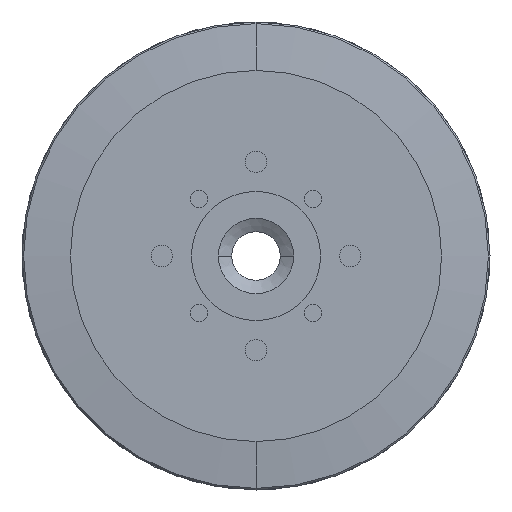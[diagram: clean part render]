
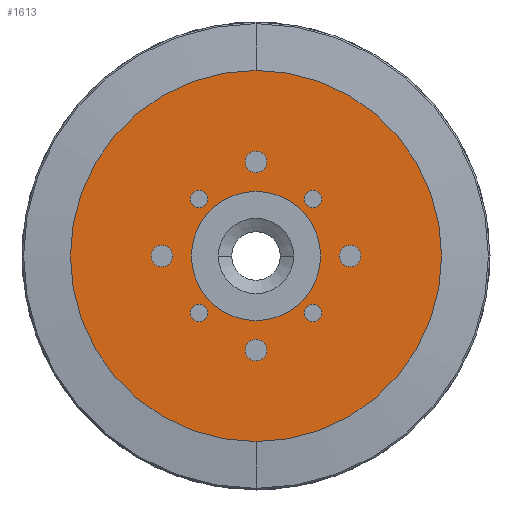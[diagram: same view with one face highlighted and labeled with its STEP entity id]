
A CAD part, left-side view. The second image highlights one B-rep face of the part: STEP entity #1613.
In plain terms, the highlighted planar face has unit normal (-1, 0, 0).
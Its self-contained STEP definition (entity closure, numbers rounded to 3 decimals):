
#92=CARTESIAN_POINT('',(-25.5,0.,0.));
#93=DIRECTION('',(-1.,0.,0.));
#94=DIRECTION('',(0.,0.,1.));
#95=AXIS2_PLACEMENT_3D('',#92,#93,#94);
#101=CARTESIAN_POINT('',(-25.5,0.,0.));
#102=DIRECTION('',(1.,0.,0.));
#103=DIRECTION('',(0.,0.,1.));
#104=AXIS2_PLACEMENT_3D('',#101,#102,#103);
#106=CARTESIAN_POINT('',(-25.5,0.,0.));
#107=DIRECTION('',(1.,0.,0.));
#108=DIRECTION('',(0.,0.,1.));
#109=AXIS2_PLACEMENT_3D('',#106,#107,#108);
#111=CARTESIAN_POINT('',(-25.5,0.,0.));
#112=DIRECTION('',(-1.,0.,0.));
#113=DIRECTION('',(0.,0.,1.));
#114=AXIS2_PLACEMENT_3D('',#111,#112,#113);
#116=CARTESIAN_POINT('',(-25.5,0.,17.5));
#117=DIRECTION('',(1.,0.,0.));
#118=DIRECTION('',(0.,1.,0.));
#119=AXIS2_PLACEMENT_3D('',#116,#117,#118);
#121=CARTESIAN_POINT('',(-25.5,0.,17.5));
#122=DIRECTION('',(1.,0.,0.));
#123=DIRECTION('',(0.,-1.,0.));
#124=AXIS2_PLACEMENT_3D('',#121,#122,#123);
#126=CARTESIAN_POINT('',(-25.5,-10.607,10.607));
#127=DIRECTION('',(-1.,0.,0.));
#128=DIRECTION('',(0.,-1.,0.));
#129=AXIS2_PLACEMENT_3D('',#126,#127,#128);
#131=CARTESIAN_POINT('',(-25.5,-10.607,10.607));
#132=DIRECTION('',(-1.,0.,0.));
#133=DIRECTION('',(0.,1.,0.));
#134=AXIS2_PLACEMENT_3D('',#131,#132,#133);
#136=CARTESIAN_POINT('',(-25.5,-17.5,0.));
#137=DIRECTION('',(1.,0.,0.));
#138=DIRECTION('',(0.,0.,1.));
#139=AXIS2_PLACEMENT_3D('',#136,#137,#138);
#141=CARTESIAN_POINT('',(-25.5,-17.5,0.));
#142=DIRECTION('',(1.,0.,0.));
#143=DIRECTION('',(0.,0.,-1.));
#144=AXIS2_PLACEMENT_3D('',#141,#142,#143);
#146=CARTESIAN_POINT('',(-25.5,-10.607,-10.607));
#147=DIRECTION('',(-1.,0.,0.));
#148=DIRECTION('',(0.,0.,-1.));
#149=AXIS2_PLACEMENT_3D('',#146,#147,#148);
#151=CARTESIAN_POINT('',(-25.5,-10.607,-10.607));
#152=DIRECTION('',(-1.,0.,0.));
#153=DIRECTION('',(0.,0.,1.));
#154=AXIS2_PLACEMENT_3D('',#151,#152,#153);
#156=CARTESIAN_POINT('',(-25.5,0.,-17.5));
#157=DIRECTION('',(1.,0.,0.));
#158=DIRECTION('',(0.,-1.,0.));
#159=AXIS2_PLACEMENT_3D('',#156,#157,#158);
#161=CARTESIAN_POINT('',(-25.5,0.,-17.5));
#162=DIRECTION('',(1.,0.,0.));
#163=DIRECTION('',(0.,1.,0.));
#164=AXIS2_PLACEMENT_3D('',#161,#162,#163);
#166=CARTESIAN_POINT('',(-25.5,10.607,-10.607));
#167=DIRECTION('',(-1.,0.,0.));
#168=DIRECTION('',(0.,1.,0.));
#169=AXIS2_PLACEMENT_3D('',#166,#167,#168);
#171=CARTESIAN_POINT('',(-25.5,10.607,-10.607));
#172=DIRECTION('',(-1.,0.,0.));
#173=DIRECTION('',(0.,-1.,0.));
#174=AXIS2_PLACEMENT_3D('',#171,#172,#173);
#176=CARTESIAN_POINT('',(-25.5,17.5,0.));
#177=DIRECTION('',(1.,0.,0.));
#178=DIRECTION('',(0.,0.,-1.));
#179=AXIS2_PLACEMENT_3D('',#176,#177,#178);
#181=CARTESIAN_POINT('',(-25.5,17.5,0.));
#182=DIRECTION('',(1.,0.,0.));
#183=DIRECTION('',(0.,0.,1.));
#184=AXIS2_PLACEMENT_3D('',#181,#182,#183);
#186=CARTESIAN_POINT('',(-25.5,10.607,10.607));
#187=DIRECTION('',(-1.,0.,0.));
#188=DIRECTION('',(0.,0.,1.));
#189=AXIS2_PLACEMENT_3D('',#186,#187,#188);
#191=CARTESIAN_POINT('',(-25.5,10.607,10.607));
#192=DIRECTION('',(-1.,0.,0.));
#193=DIRECTION('',(0.,0.,-1.));
#194=AXIS2_PLACEMENT_3D('',#191,#192,#193);
#1139=CARTESIAN_POINT('',(-25.5,0.,12.));
#1141=VERTEX_POINT('',#1139);
#1142=CARTESIAN_POINT('',(-25.5,0.,34.5));
#1144=VERTEX_POINT('',#1142);
#1189=CARTESIAN_POINT('',(-25.5,0.,-12.));
#1191=VERTEX_POINT('',#1189);
#1192=CARTESIAN_POINT('',(-25.5,0.,-34.5));
#1194=VERTEX_POINT('',#1192);
#1262=CARTESIAN_POINT('',(-25.5,2.,17.5));
#1263=CARTESIAN_POINT('',(-25.5,-2.,17.5));
#1264=VERTEX_POINT('',#1262);
#1265=VERTEX_POINT('',#1263);
#1270=CARTESIAN_POINT('',(-25.5,-12.207,10.607));
#1271=CARTESIAN_POINT('',(-25.5,-9.007,10.607));
#1272=VERTEX_POINT('',#1270);
#1273=VERTEX_POINT('',#1271);
#1278=CARTESIAN_POINT('',(-25.5,-17.5,2.));
#1279=VERTEX_POINT('',#1278);
#1280=CARTESIAN_POINT('',(-25.5,-17.5,-2.));
#1281=VERTEX_POINT('',#1280);
#1286=CARTESIAN_POINT('',(-25.5,-10.607,-12.207));
#1287=VERTEX_POINT('',#1286);
#1288=CARTESIAN_POINT('',(-25.5,-10.607,-9.007));
#1289=VERTEX_POINT('',#1288);
#1294=CARTESIAN_POINT('',(-25.5,-2.,-17.5));
#1295=VERTEX_POINT('',#1294);
#1296=CARTESIAN_POINT('',(-25.5,2.,-17.5));
#1297=VERTEX_POINT('',#1296);
#1302=CARTESIAN_POINT('',(-25.5,12.207,-10.607));
#1303=VERTEX_POINT('',#1302);
#1304=CARTESIAN_POINT('',(-25.5,9.007,-10.607));
#1305=VERTEX_POINT('',#1304);
#1310=CARTESIAN_POINT('',(-25.5,17.5,-2.));
#1311=VERTEX_POINT('',#1310);
#1312=CARTESIAN_POINT('',(-25.5,17.5,2.));
#1313=VERTEX_POINT('',#1312);
#1318=CARTESIAN_POINT('',(-25.5,10.607,12.207));
#1319=VERTEX_POINT('',#1318);
#1320=CARTESIAN_POINT('',(-25.5,10.607,9.007));
#1321=VERTEX_POINT('',#1320);
#1550=CARTESIAN_POINT('',(-25.5,0.,0.));
#1551=DIRECTION('',(1.,0.,0.));
#1552=DIRECTION('',(0.,0.,1.));
#1553=AXIS2_PLACEMENT_3D('',#1550,#1551,#1552);
#1554=PLANE('',#1553);
#1555=ORIENTED_EDGE('',*,*,#1529,.F.);
#1556=ORIENTED_EDGE('',*,*,#1545,.T.);
#1557=EDGE_LOOP('',(#1555,#1556));
#1558=FACE_OUTER_BOUND('',#1557,.F.);
#1560=ORIENTED_EDGE('',*,*,#1559,.F.);
#1562=ORIENTED_EDGE('',*,*,#1561,.T.);
#1563=EDGE_LOOP('',(#1560,#1562));
#1564=FACE_BOUND('',#1563,.F.);
#1566=ORIENTED_EDGE('',*,*,#1565,.F.);
#1568=ORIENTED_EDGE('',*,*,#1567,.F.);
#1569=EDGE_LOOP('',(#1566,#1568));
#1570=FACE_BOUND('',#1569,.F.);
#1572=ORIENTED_EDGE('',*,*,#1571,.T.);
#1574=ORIENTED_EDGE('',*,*,#1573,.T.);
#1575=EDGE_LOOP('',(#1572,#1574));
#1576=FACE_BOUND('',#1575,.F.);
#1578=ORIENTED_EDGE('',*,*,#1577,.F.);
#1580=ORIENTED_EDGE('',*,*,#1579,.F.);
#1581=EDGE_LOOP('',(#1578,#1580));
#1582=FACE_BOUND('',#1581,.F.);
#1584=ORIENTED_EDGE('',*,*,#1583,.T.);
#1586=ORIENTED_EDGE('',*,*,#1585,.T.);
#1587=EDGE_LOOP('',(#1584,#1586));
#1588=FACE_BOUND('',#1587,.F.);
#1590=ORIENTED_EDGE('',*,*,#1589,.F.);
#1592=ORIENTED_EDGE('',*,*,#1591,.F.);
#1593=EDGE_LOOP('',(#1590,#1592));
#1594=FACE_BOUND('',#1593,.F.);
#1596=ORIENTED_EDGE('',*,*,#1595,.T.);
#1598=ORIENTED_EDGE('',*,*,#1597,.T.);
#1599=EDGE_LOOP('',(#1596,#1598));
#1600=FACE_BOUND('',#1599,.F.);
#1602=ORIENTED_EDGE('',*,*,#1601,.F.);
#1604=ORIENTED_EDGE('',*,*,#1603,.F.);
#1605=EDGE_LOOP('',(#1602,#1604));
#1606=FACE_BOUND('',#1605,.F.);
#1608=ORIENTED_EDGE('',*,*,#1607,.T.);
#1610=ORIENTED_EDGE('',*,*,#1609,.T.);
#1611=EDGE_LOOP('',(#1608,#1610));
#1612=FACE_BOUND('',#1611,.F.);
#96=CIRCLE('',#95,34.5);
#105=CIRCLE('',#104,34.5);
#110=CIRCLE('',#109,12.);
#115=CIRCLE('',#114,12.);
#120=CIRCLE('',#119,2.);
#125=CIRCLE('',#124,2.);
#130=CIRCLE('',#129,1.6);
#135=CIRCLE('',#134,1.6);
#140=CIRCLE('',#139,2.);
#145=CIRCLE('',#144,2.);
#150=CIRCLE('',#149,1.6);
#155=CIRCLE('',#154,1.6);
#160=CIRCLE('',#159,2.);
#165=CIRCLE('',#164,2.);
#170=CIRCLE('',#169,1.6);
#175=CIRCLE('',#174,1.6);
#180=CIRCLE('',#179,2.);
#185=CIRCLE('',#184,2.);
#190=CIRCLE('',#189,1.6);
#195=CIRCLE('',#194,1.6);
#1529=EDGE_CURVE('',#1144,#1194,#96,.T.);
#1545=EDGE_CURVE('',#1144,#1194,#105,.T.);
#1559=EDGE_CURVE('',#1141,#1191,#110,.T.);
#1561=EDGE_CURVE('',#1141,#1191,#115,.T.);
#1565=EDGE_CURVE('',#1264,#1265,#120,.T.);
#1567=EDGE_CURVE('',#1265,#1264,#125,.T.);
#1571=EDGE_CURVE('',#1272,#1273,#130,.T.);
#1573=EDGE_CURVE('',#1273,#1272,#135,.T.);
#1577=EDGE_CURVE('',#1279,#1281,#140,.T.);
#1579=EDGE_CURVE('',#1281,#1279,#145,.T.);
#1583=EDGE_CURVE('',#1287,#1289,#150,.T.);
#1585=EDGE_CURVE('',#1289,#1287,#155,.T.);
#1589=EDGE_CURVE('',#1295,#1297,#160,.T.);
#1591=EDGE_CURVE('',#1297,#1295,#165,.T.);
#1595=EDGE_CURVE('',#1303,#1305,#170,.T.);
#1597=EDGE_CURVE('',#1305,#1303,#175,.T.);
#1601=EDGE_CURVE('',#1311,#1313,#180,.T.);
#1603=EDGE_CURVE('',#1313,#1311,#185,.T.);
#1607=EDGE_CURVE('',#1319,#1321,#190,.T.);
#1609=EDGE_CURVE('',#1321,#1319,#195,.T.);
#1613=ADVANCED_FACE('',(#1558,#1564,#1570,#1576,#1582,#1588,#1594,#1600,#1606,
#1612),#1554,.F.);
